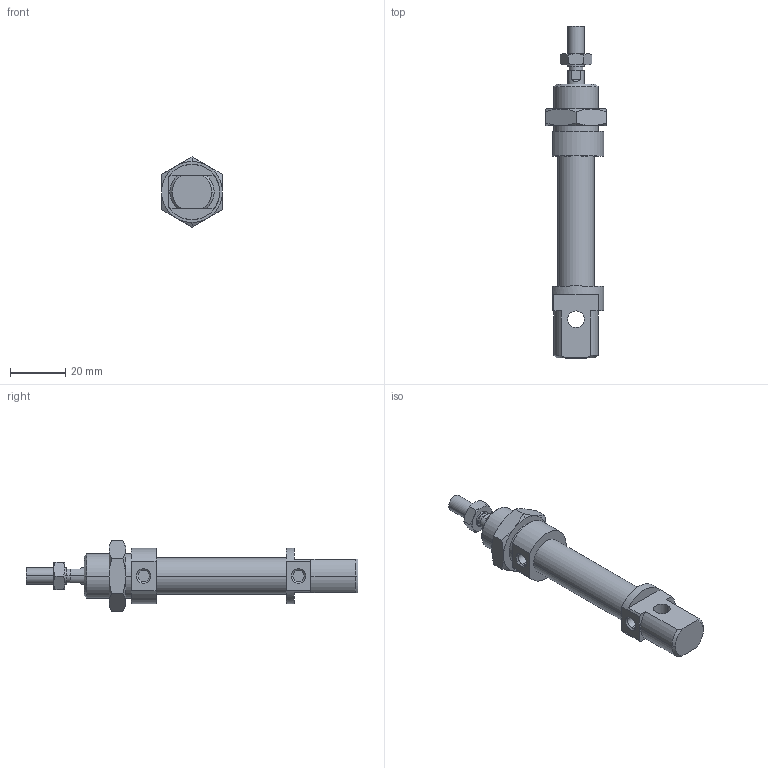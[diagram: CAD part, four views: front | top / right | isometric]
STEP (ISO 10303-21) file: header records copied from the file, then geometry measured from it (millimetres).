
FILE_DESCRIPTION((''),'2;1');
FILE_NAME('I:\DOC-EDP\Lib-3d\1200\CILINDRI\1280\1280_12_0015.stp','2003-04-07T14:48:06',('maffial1'),(''),'Autodesk Inventor (R) 6.0','Autodesk Inventor (R) 6.0','');
FILE_SCHEMA(('AUTOMOTIVE_DESIGN { 1 0 10303 214 1 1 1 1 }'));
Length unit declared in the file: millimetre
Products named in the file (5): 1280_12_0015; S1280_12_15; 1200_12_05; 1200_12_06; C1280_12_15
Assembly tree (4 placements, depth 2):
  1280_12_0015
    S1280_12_15
    1200_12_05
    1200_12_06
    C1280_12_15
Bounding box: 22 x 120 x 25.4 mm (x, y, z)
Volume: 19484.1 mm3; surface area: 9392.8 mm2
Topology: 4 solids, 4 shells, 121 faces, 268 edges, 162 vertices
Faces by surface type: cone 40, plane 39, cylinder 22, bspline 20
Entity records: 3653 total; most frequent: CARTESIAN_POINT 976, DIRECTION 556, ORIENTED_EDGE 536, EDGE_CURVE 268, AXIS2_PLACEMENT_3D 230, VERTEX_POINT 162, EDGE_LOOP 134, FACE_OUTER_BOUND 121
